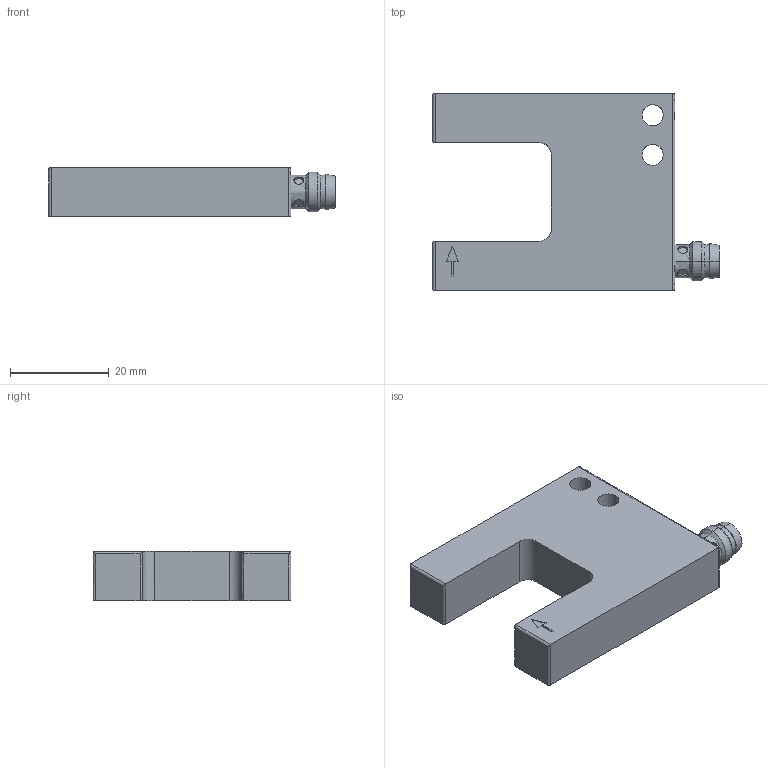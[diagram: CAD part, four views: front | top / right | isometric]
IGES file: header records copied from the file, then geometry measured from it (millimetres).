
Global section: file name: E:\temp\gs04_mw20.igs; preprocessor: I-DEAS 3D IGES Translator 11; date: 20100309.093248; units: millimetre
Bounding box: 58 x 40 x 10 mm (x, y, z)
Volume: 14747.4 mm3; surface area: 5764.5 mm2
Topology: 1 solids, 1 shells, 96 faces, 225 edges, 136 vertices
Faces by surface type: bspline 96
